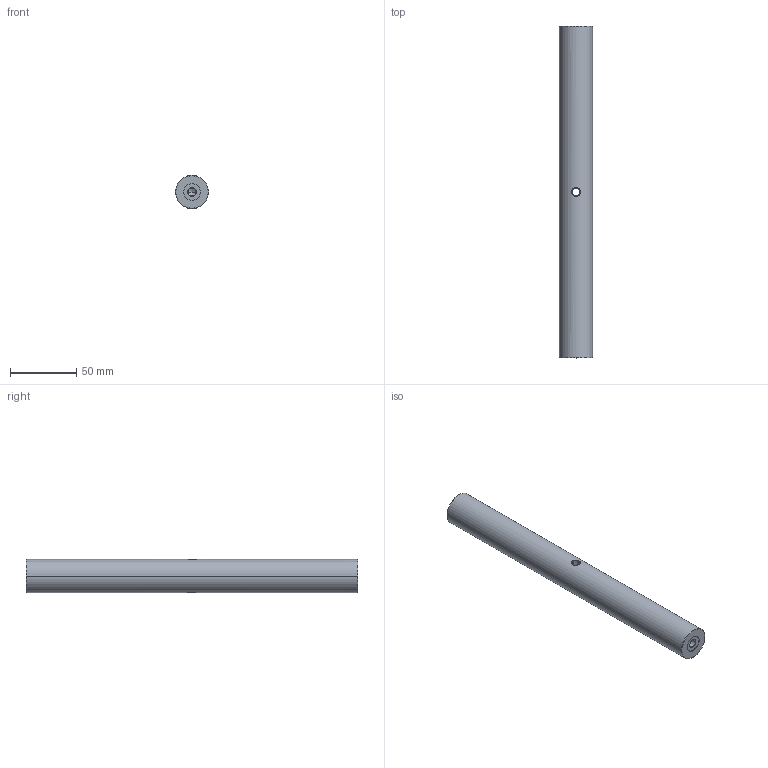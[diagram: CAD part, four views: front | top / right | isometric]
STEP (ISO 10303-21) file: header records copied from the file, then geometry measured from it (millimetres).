
FILE_DESCRIPTION((''),'2;1');
FILE_NAME('CFJP250-S','2021-04-26T',('Administrator'),(''),'CREO PARAMETRIC BY PTC INC, 2015290','CREO PARAMETRIC BY PTC INC, 2015290','');
FILE_SCHEMA(('CONFIG_CONTROL_DESIGN'));
Length unit declared in the file: millimetre
Products named in the file (1): CFJP250-S
Bounding box: 25 x 250 x 25 mm (x, y, z)
Volume: 121119.5 mm3; surface area: 21517.2 mm2
Topology: 1 solids, 1 shells, 32 faces, 68 edges, 38 vertices
Faces by surface type: cylinder 12, cone 12, plane 4, bspline 4
Entity records: 1186 total; most frequent: CARTESIAN_POINT 482, DIRECTION 140, ORIENTED_EDGE 128, EDGE_CURVE 64, AXIS2_PLACEMENT_3D 56, VERTEX_POINT 38, EDGE_LOOP 38, FACE_OUTER_BOUND 32
